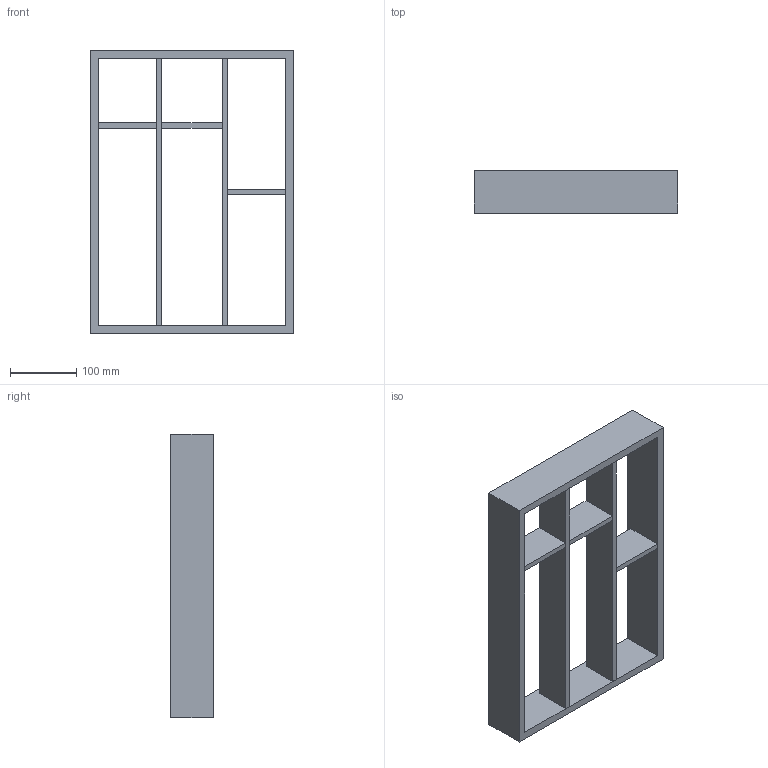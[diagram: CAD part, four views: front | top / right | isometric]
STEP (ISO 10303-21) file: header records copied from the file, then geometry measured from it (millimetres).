
FILE_DESCRIPTION (( 'STEP AP214' ), '1' );
FILE_NAME ('Vario Besteck NL450_B400_16 mm_Alu.step', '2010-11-04T08:33:12', ( 'grass' ), ( '' ), 'SwSTEP 2.0', 'SolidWorks 2010', '' );
FILE_SCHEMA (( 'AUTOMOTIVE_DESIGN' ));
Length unit declared in the file: millimetre
Products named in the file (1): Vario Besteck NL450_B400_16 mm_Alu
Bounding box: 308 x 65 x 429 mm (x, y, z)
Volume: 1603848 mm3; surface area: 364304 mm2
Topology: 6 solids, 6 shells, 40 faces, 84 edges, 56 vertices
Faces by surface type: plane 40
Entity records: 1131 total; most frequent: CARTESIAN_POINT 181, ORIENTED_EDGE 168, DIRECTION 166, EDGE_CURVE 84, VECTOR 84, LINE 84, VERTEX_POINT 56, EDGE_LOOP 42
